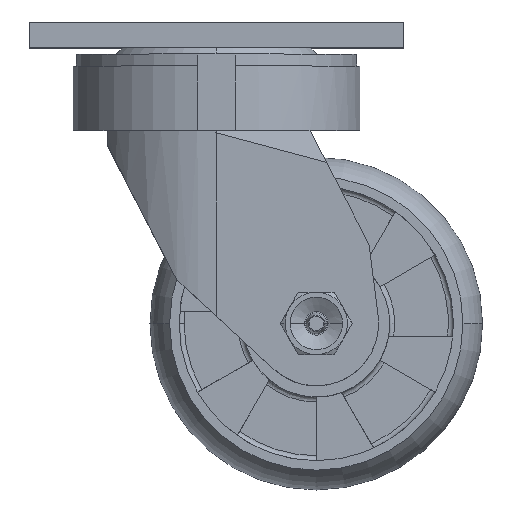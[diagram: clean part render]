
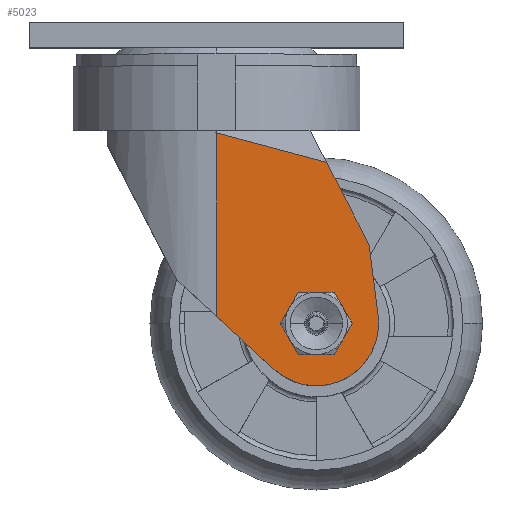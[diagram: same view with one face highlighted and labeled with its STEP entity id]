
A CAD part, top view. The second image highlights one B-rep face of the part: STEP entity #5023.
In plain terms, the highlighted planar face has unit normal (0, 0, 1).
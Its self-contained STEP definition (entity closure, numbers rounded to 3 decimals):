
#480 = EDGE_CURVE ( 'NONE', #8747, #11410, #11504, .T. ) ;
#493 = CARTESIAN_POINT ( 'NONE',  ( 42.883, -96.388, 37.592 ) ) ;
#531 = DIRECTION ( 'NONE',  ( -0.735, 0.678, 0. ) ) ;
#624 = EDGE_LOOP ( 'NONE', ( #10220, #9695 ) ) ;
#660 = DIRECTION ( 'NONE',  ( 1., 0., 0. ) ) ;
#945 = DIRECTION ( 'NONE',  ( 1., 0., 0. ) ) ;
#1493 = VERTEX_POINT ( 'NONE', #2166 ) ;
#1638 = AXIS2_PLACEMENT_3D ( 'NONE', #7260, #3664, #9992 ) ;
#1689 = EDGE_CURVE ( 'NONE', #1493, #7156, #6385, .T. ) ;
#1712 = DIRECTION ( 'NONE',  ( 0., -1., 0. ) ) ;
#1737 = ORIENTED_EDGE ( 'NONE', *, *, #6305, .F. ) ;
#1762 = AXIS2_PLACEMENT_3D ( 'NONE', #9040, #3591, #9905 ) ;
#2166 = CARTESIAN_POINT ( 'NONE',  ( 37.084, -59.03, 37.592 ) ) ;
#2459 = CARTESIAN_POINT ( 'NONE',  ( 49.53, -142.875, 37.592 ) ) ;
#2769 = CARTESIAN_POINT ( 'NONE',  ( 35.52, -10.314, 37.592 ) ) ;
#2888 = DIRECTION ( 'NONE',  ( 0.459, -0.889, 0. ) ) ;
#2928 = DIRECTION ( 'NONE',  ( 0., 1., 0. ) ) ;
#3052 = VERTEX_POINT ( 'NONE', #10632 ) ;
#3108 = ORIENTED_EDGE ( 'NONE', *, *, #10962, .T. ) ;
#3344 = ORIENTED_EDGE ( 'NONE', *, *, #5190, .F. ) ;
#3571 = ORIENTED_EDGE ( 'NONE', *, *, #5138, .F. ) ;
#3591 = DIRECTION ( 'NONE',  ( 0., 0., 1. ) ) ;
#3610 = CARTESIAN_POINT ( 'NONE',  ( 46.586, -34.859, 37.592 ) ) ;
#3664 = DIRECTION ( 'NONE',  ( 0., 0., 1. ) ) ;
#3673 = CIRCLE ( 'NONE', #7238, 19.05 ) ;
#3924 = VECTOR ( 'NONE', #5469, 1000. ) ;
#4207 = LINE ( 'NONE', #9034, #9314 ) ;
#4632 = CARTESIAN_POINT ( 'NONE',  ( 33.654, -9.814, 37.592 ) ) ;
#4734 = CARTESIAN_POINT ( 'NONE',  ( 49.53, -59.03, 37.592 ) ) ;
#5023 = ADVANCED_FACE ( 'NONE', ( #5620, #5215 ), #9240, .T. ) ;
#5138 = EDGE_CURVE ( 'NONE', #9405, #10896, #8061, .T. ) ;
#5190 = EDGE_CURVE ( 'NONE', #11410, #5967, #6630, .T. ) ;
#5215 = FACE_BOUND ( 'NONE', #624, .T. ) ;
#5229 = EDGE_LOOP ( 'NONE', ( #3571, #3108, #3344, #9673, #7361, #1737, #10523 ) ) ;
#5370 = CARTESIAN_POINT ( 'NONE',  ( 17.563, -73.032, 37.592 ) ) ;
#5469 = DIRECTION ( 'NONE',  ( -0.966, 0.259, 0. ) ) ;
#5511 = CARTESIAN_POINT ( 'NONE',  ( 0., -142.875, 37.592 ) ) ;
#5620 = FACE_OUTER_BOUND ( 'NONE', #5229, .T. ) ;
#5714 = EDGE_CURVE ( 'NONE', #7231, #8747, #3673, .T. ) ;
#5967 = VERTEX_POINT ( 'NONE', #11015 ) ;
#6299 = DIRECTION ( 'NONE',  ( 0.127, -0.992, 0. ) ) ;
#6305 = EDGE_CURVE ( 'NONE', #3052, #7231, #7178, .T. ) ;
#6353 = DIRECTION ( 'NONE',  ( 0., 0., 1. ) ) ;
#6385 = CIRCLE ( 'NONE', #1762, 6.604 ) ;
#6394 = VECTOR ( 'NONE', #531, 1000. ) ;
#6533 = EDGE_CURVE ( 'NONE', #10896, #3052, #4207, .T. ) ;
#6630 = LINE ( 'NONE', #5511, #7199 ) ;
#6900 = AXIS2_PLACEMENT_3D ( 'NONE', #8301, #6353, #945 ) ;
#7156 = VERTEX_POINT ( 'NONE', #10920 ) ;
#7178 = LINE ( 'NONE', #2459, #10439 ) ;
#7199 = VECTOR ( 'NONE', #2928, 1000. ) ;
#7231 = VERTEX_POINT ( 'NONE', #4734 ) ;
#7238 = AXIS2_PLACEMENT_3D ( 'NONE', #7828, #9641, #660 ) ;
#7260 = CARTESIAN_POINT ( 'NONE',  ( 0., -142.875, 37.592 ) ) ;
#7361 = ORIENTED_EDGE ( 'NONE', *, *, #5714, .F. ) ;
#7828 = CARTESIAN_POINT ( 'NONE',  ( 30.48, -59.03, 37.592 ) ) ;
#8061 = LINE ( 'NONE', #10130, #10749 ) ;
#8301 = CARTESIAN_POINT ( 'NONE',  ( 30.48, -59.03, 37.592 ) ) ;
#8343 = EDGE_CURVE ( 'NONE', #7156, #1493, #8474, .T. ) ;
#8474 = CIRCLE ( 'NONE', #6900, 6.604 ) ;
#8747 = VERTEX_POINT ( 'NONE', #5370 ) ;
#9034 = CARTESIAN_POINT ( 'NONE',  ( 59.463, -135.247, 37.592 ) ) ;
#9040 = CARTESIAN_POINT ( 'NONE',  ( 30.48, -59.03, 37.592 ) ) ;
#9240 = PLANE ( 'NONE',  #1638 ) ;
#9314 = VECTOR ( 'NONE', #6299, 1000. ) ;
#9405 = VERTEX_POINT ( 'NONE', #4632 ) ;
#9641 = DIRECTION ( 'NONE',  ( 0., 0., -1. ) ) ;
#9673 = ORIENTED_EDGE ( 'NONE', *, *, #480, .F. ) ;
#9695 = ORIENTED_EDGE ( 'NONE', *, *, #1689, .F. ) ;
#9862 = LINE ( 'NONE', #2769, #3924 ) ;
#9905 = DIRECTION ( 'NONE',  ( 1., 0., 0. ) ) ;
#9992 = DIRECTION ( 'NONE',  ( 1., 0., 0. ) ) ;
#10130 = CARTESIAN_POINT ( 'NONE',  ( 80.814, -101.147, 37.592 ) ) ;
#10220 = ORIENTED_EDGE ( 'NONE', *, *, #8343, .F. ) ;
#10439 = VECTOR ( 'NONE', #1712, 1000. ) ;
#10523 = ORIENTED_EDGE ( 'NONE', *, *, #6533, .F. ) ;
#10632 = CARTESIAN_POINT ( 'NONE',  ( 49.53, -57.813, 37.592 ) ) ;
#10749 = VECTOR ( 'NONE', #2888, 1000. ) ;
#10896 = VERTEX_POINT ( 'NONE', #3610 ) ;
#10920 = CARTESIAN_POINT ( 'NONE',  ( 23.876, -59.03, 37.592 ) ) ;
#10962 = EDGE_CURVE ( 'NONE', #9405, #5967, #9862, .T. ) ;
#11015 = CARTESIAN_POINT ( 'NONE',  ( 0., -0.796, 37.592 ) ) ;
#11410 = VERTEX_POINT ( 'NONE', #11672 ) ;
#11504 = LINE ( 'NONE', #493, #6394 ) ;
#11672 = CARTESIAN_POINT ( 'NONE',  ( 0., -56.83, 37.592 ) ) ;
